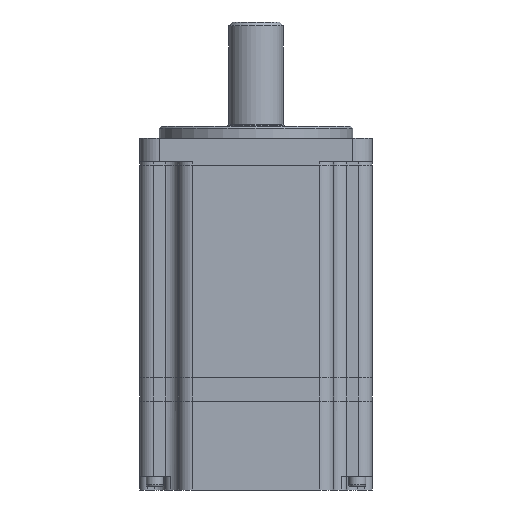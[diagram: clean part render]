
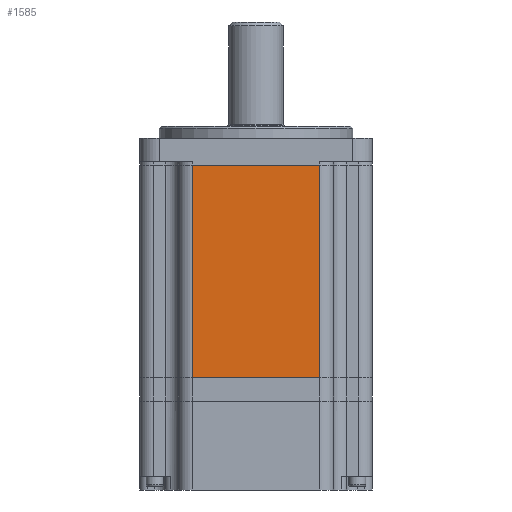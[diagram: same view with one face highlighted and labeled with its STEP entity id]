
A CAD part, front view. The second image highlights one B-rep face of the part: STEP entity #1585.
In plain terms, the highlighted planar face has unit normal (0, -1, 0).
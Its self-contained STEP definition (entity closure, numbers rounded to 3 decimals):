
#642 = EDGE_CURVE ( 'NONE', #13674, #11025, #8703, .T. ) ;
#1585 = ADVANCED_FACE ( 'NONE', ( #8909 ), #12004, .F. ) ;
#1911 = VECTOR ( 'NONE', #16349, 1000. ) ;
#2064 = EDGE_CURVE ( 'NONE', #11025, #12163, #15368, .T. ) ;
#2563 = DIRECTION ( 'NONE',  ( -1., 0., 0. ) ) ;
#2625 = ORIENTED_EDGE ( 'NONE', *, *, #7165, .T. ) ;
#2787 = ORIENTED_EDGE ( 'NONE', *, *, #2064, .T. ) ;
#3744 = CARTESIAN_POINT ( 'NONE',  ( 20., -30., -56. ) ) ;
#3887 = DIRECTION ( 'NONE',  ( 0., 0., -1. ) ) ;
#5133 = DIRECTION ( 'NONE',  ( 0., 0., 1. ) ) ;
#6020 = LINE ( 'NONE', #9472, #1911 ) ;
#6385 = CARTESIAN_POINT ( 'NONE',  ( 16.5, -30., -56. ) ) ;
#7165 = EDGE_CURVE ( 'NONE', #10534, #13674, #6020, .T. ) ;
#7700 = CARTESIAN_POINT ( 'NONE',  ( -16.5, -30., -1. ) ) ;
#7991 = DIRECTION ( 'NONE',  ( -1., 0., 0. ) ) ;
#8294 = VECTOR ( 'NONE', #2563, 1000. ) ;
#8580 = EDGE_CURVE ( 'NONE', #10534, #12163, #12457, .T. ) ;
#8703 = LINE ( 'NONE', #14967, #8294 ) ;
#8795 = VECTOR ( 'NONE', #7991, 1000. ) ;
#8909 = FACE_OUTER_BOUND ( 'NONE', #15171, .T. ) ;
#9472 = CARTESIAN_POINT ( 'NONE',  ( 16.5, -30., -56. ) ) ;
#10534 = VERTEX_POINT ( 'NONE', #6385 ) ;
#11025 = VERTEX_POINT ( 'NONE', #7700 ) ;
#11676 = VECTOR ( 'NONE', #3887, 1000. ) ;
#11747 = ORIENTED_EDGE ( 'NONE', *, *, #8580, .F. ) ;
#12004 = PLANE ( 'NONE',  #13895 ) ;
#12150 = CARTESIAN_POINT ( 'NONE',  ( -16.5, -30., -56. ) ) ;
#12163 = VERTEX_POINT ( 'NONE', #15924 ) ;
#12457 = LINE ( 'NONE', #16240, #8795 ) ;
#13403 = DIRECTION ( 'NONE',  ( 0., 1., 0. ) ) ;
#13674 = VERTEX_POINT ( 'NONE', #14653 ) ;
#13851 = ORIENTED_EDGE ( 'NONE', *, *, #642, .T. ) ;
#13895 = AXIS2_PLACEMENT_3D ( 'NONE', #3744, #13403, #5133 ) ;
#14653 = CARTESIAN_POINT ( 'NONE',  ( 16.5, -30., -1. ) ) ;
#14967 = CARTESIAN_POINT ( 'NONE',  ( 20., -30., -1. ) ) ;
#15171 = EDGE_LOOP ( 'NONE', ( #11747, #2625, #13851, #2787 ) ) ;
#15368 = LINE ( 'NONE', #12150, #11676 ) ;
#15924 = CARTESIAN_POINT ( 'NONE',  ( -16.5, -30., -56. ) ) ;
#16240 = CARTESIAN_POINT ( 'NONE',  ( 20., -30., -56. ) ) ;
#16349 = DIRECTION ( 'NONE',  ( 0., 0., 1. ) ) ;
